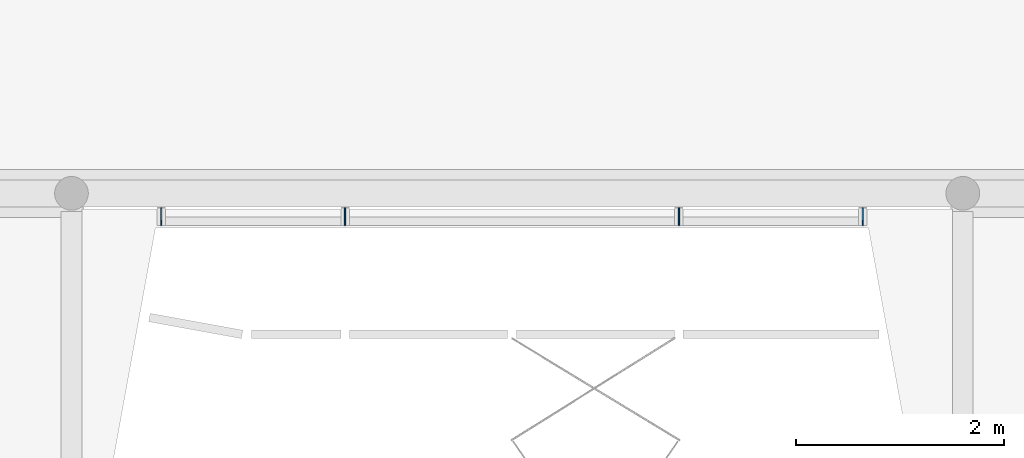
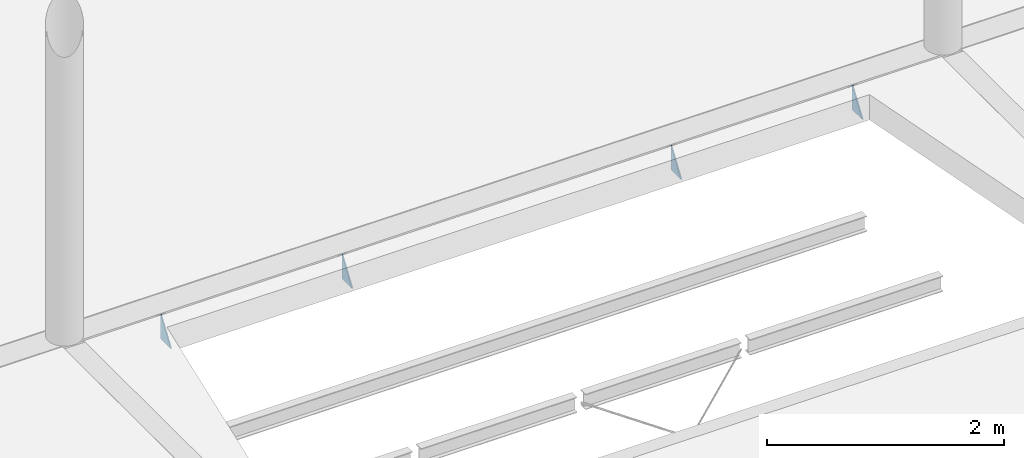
# One storey, part 13 of 14: 4 beams.
"""IFC2X3 building model written with IfcOpenShell, lengths in millimetres."""

from ifc_helpers import new_model, entity, si_unit, converted_unit, derived_unit, direction, frame, origin, place, context, subcontext, project, spatial, faceted_brep, material, type_object, element, save


model = new_model("IFC2X3")

# Units and contexts
model_context = context("Model", 3, precision=0.01, world=origin(), true_north=direction((6.123031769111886e-17, 1.0)))
body_context = subcontext(model_context, "Body", "Model", "MODEL_VIEW")
ifc_project = project(units=[si_unit("LENGTHUNIT", "METRE", prefix="MILLI"), si_unit("AREAUNIT", "SQUARE_METRE", prefix="MILLI"), si_unit("VOLUMEUNIT", "CUBIC_METRE"), converted_unit("PLANEANGLEUNIT", "DEGREE", entity("IfcPlaneAngleMeasure", 0.017453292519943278), si_unit("PLANEANGLEUNIT", "RADIAN"), dimensions=[0, 0, 0, 0, 0, 0, 0]), si_unit("MASSUNIT", "GRAM", prefix="KILO"), derived_unit("MASSDENSITYUNIT", [(si_unit("MASSUNIT", "GRAM", prefix="KILO"), 1), (si_unit("LENGTHUNIT", "METRE"), -3)]), derived_unit("IONCONCENTRATIONUNIT", [(si_unit("MASSUNIT", "GRAM", prefix="KILO"), 1), (si_unit("LENGTHUNIT", "METRE"), -3)]), derived_unit("MOMENTOFINERTIAUNIT", [(si_unit("LENGTHUNIT", "METRE"), 4)]), si_unit("TIMEUNIT", "SECOND"), si_unit("FREQUENCYUNIT", "HERTZ"), si_unit("THERMODYNAMICTEMPERATUREUNIT", "DEGREE_CELSIUS"), derived_unit("THERMALTRANSMITTANCEUNIT", [(si_unit("MASSUNIT", "GRAM", prefix="KILO"), 1), (si_unit("THERMODYNAMICTEMPERATUREUNIT", "KELVIN"), -1), (si_unit("TIMEUNIT", "SECOND"), -3)]), derived_unit("THERMALCONDUCTANCEUNIT", [(si_unit("MASSUNIT", "GRAM", prefix="KILO"), 1), (si_unit("THERMODYNAMICTEMPERATUREUNIT", "KELVIN"), -1), (si_unit("TIMEUNIT", "SECOND"), -3), (si_unit("LENGTHUNIT", "METRE"), 1)]), derived_unit("VOLUMETRICFLOWRATEUNIT", [(si_unit("LENGTHUNIT", "METRE", prefix="DECI"), 3), (si_unit("TIMEUNIT", "SECOND"), -1)]), derived_unit("MASSFLOWRATEUNIT", [(si_unit("MASSUNIT", "GRAM", prefix="KILO"), 1), (si_unit("TIMEUNIT", "SECOND"), -1)]), derived_unit("ROTATIONALFREQUENCYUNIT", [(si_unit("TIMEUNIT", "SECOND"), -1)]), si_unit("ELECTRICCURRENTUNIT", "AMPERE"), si_unit("ELECTRICVOLTAGEUNIT", "VOLT"), si_unit("POWERUNIT", "WATT"), si_unit("FORCEUNIT", "NEWTON", prefix="KILO"), si_unit("ILLUMINANCEUNIT", "LUX"), si_unit("LUMINOUSFLUXUNIT", "LUMEN"), si_unit("LUMINOUSINTENSITYUNIT", "CANDELA"), si_unit("ENERGYUNIT", "JOULE"), derived_unit("USERDEFINED", [(si_unit("MASSUNIT", "GRAM", prefix="KILO"), -1), (si_unit("LENGTHUNIT", "METRE"), -2), (si_unit("TIMEUNIT", "SECOND"), 3), (si_unit("LUMINOUSFLUXUNIT", "LUMEN"), 1)]), derived_unit("USERDEFINED", [(si_unit("MASSUNIT", "GRAM", prefix="KILO"), 1), (si_unit("TIMEUNIT", "SECOND"), -3), (si_unit("LENGTHUNIT", "METRE"), 3), (si_unit("ELECTRICCURRENTUNIT", "AMPERE"), -2)]), derived_unit("SOUNDPOWERUNIT", [(si_unit("MASSUNIT", "GRAM", prefix="KILO"), 1), (si_unit("TIMEUNIT", "SECOND"), -3), (si_unit("LENGTHUNIT", "METRE"), 2)]), derived_unit("SOUNDPRESSUREUNIT", [(si_unit("MASSUNIT", "GRAM", prefix="KILO"), 1), (si_unit("LENGTHUNIT", "METRE"), -1), (si_unit("TIMEUNIT", "SECOND"), -2)]), derived_unit("LINEARVELOCITYUNIT", [(si_unit("LENGTHUNIT", "METRE"), 1), (si_unit("TIMEUNIT", "SECOND"), -1)]), si_unit("PRESSUREUNIT", "PASCAL"), derived_unit("USERDEFINED", [(si_unit("MASSUNIT", "GRAM", prefix="KILO"), 1), (si_unit("LENGTHUNIT", "METRE"), -2), (si_unit("TIMEUNIT", "SECOND"), -2)]), derived_unit("LINEARFORCEUNIT", [(si_unit("MASSUNIT", "GRAM", prefix="KILO"), 1), (si_unit("TIMEUNIT", "SECOND"), -2)]), derived_unit("PLANARFORCEUNIT", [(si_unit("MASSUNIT", "GRAM", prefix="KILO"), 1), (si_unit("LENGTHUNIT", "METRE"), -1), (si_unit("TIMEUNIT", "SECOND"), -2)]), derived_unit("SPECIFICHEATCAPACITYUNIT", [(si_unit("THERMODYNAMICTEMPERATUREUNIT", "KELVIN"), -1), (si_unit("LENGTHUNIT", "METRE"), 2), (si_unit("TIMEUNIT", "SECOND"), -2)]), derived_unit("HEATFLUXDENSITYUNIT", [(si_unit("MASSUNIT", "GRAM", prefix="KILO"), 1), (si_unit("TIMEUNIT", "SECOND"), -3)]), derived_unit("HEATINGVALUEUNIT", [(si_unit("LENGTHUNIT", "METRE"), 2), (si_unit("TIMEUNIT", "SECOND"), -2)]), derived_unit("VAPORPERMEABILITYUNIT", [(si_unit("LENGTHUNIT", "METRE"), -1), (si_unit("TIMEUNIT", "SECOND"), 1)]), derived_unit("DYNAMICVISCOSITYUNIT", [(si_unit("MASSUNIT", "GRAM", prefix="KILO"), 1), (si_unit("TIMEUNIT", "SECOND"), -1), (si_unit("LENGTHUNIT", "METRE"), -1)]), derived_unit("THERMALEXPANSIONCOEFFICIENTUNIT", [(si_unit("THERMODYNAMICTEMPERATUREUNIT", "KELVIN"), -1)]), derived_unit("MODULUSOFELASTICITYUNIT", [(si_unit("MASSUNIT", "GRAM", prefix="KILO"), 1), (si_unit("LENGTHUNIT", "METRE"), -1), (si_unit("TIMEUNIT", "SECOND"), -2)]), derived_unit("ISOTHERMALMOISTURECAPACITYUNIT", [(si_unit("MASSUNIT", "GRAM", prefix="KILO"), -1), (si_unit("LENGTHUNIT", "METRE"), 3)]), derived_unit("MOISTUREDIFFUSIVITYUNIT", [(si_unit("TIMEUNIT", "SECOND"), -1), (si_unit("LENGTHUNIT", "METRE"), 2)]), derived_unit("MASSPERLENGTHUNIT", [(si_unit("MASSUNIT", "GRAM", prefix="KILO"), 1), (si_unit("LENGTHUNIT", "METRE"), -1)]), derived_unit("THERMALRESISTANCEUNIT", [(si_unit("MASSUNIT", "GRAM", prefix="KILO"), -1), (si_unit("TIMEUNIT", "SECOND"), 3), (si_unit("THERMODYNAMICTEMPERATUREUNIT", "KELVIN"), 1)]), derived_unit("ACCELERATIONUNIT", [(si_unit("LENGTHUNIT", "METRE"), 1), (si_unit("TIMEUNIT", "SECOND"), -2)]), derived_unit("ANGULARVELOCITYUNIT", [(si_unit("TIMEUNIT", "SECOND"), -1), (si_unit("PLANEANGLEUNIT", "RADIAN"), 1)]), derived_unit("LINEARSTIFFNESSUNIT", [(si_unit("MASSUNIT", "GRAM", prefix="KILO"), 1), (si_unit("TIMEUNIT", "SECOND"), -2)]), derived_unit("WARPINGCONSTANTUNIT", [(si_unit("LENGTHUNIT", "METRE"), 6)]), derived_unit("LINEARMOMENTUNIT", [(si_unit("MASSUNIT", "GRAM", prefix="KILO"), 1), (si_unit("LENGTHUNIT", "METRE"), 1), (si_unit("TIMEUNIT", "SECOND"), -2)]), derived_unit("TORQUEUNIT", [(si_unit("MASSUNIT", "GRAM", prefix="KILO"), 1), (si_unit("LENGTHUNIT", "METRE"), 2), (si_unit("TIMEUNIT", "SECOND"), -2)])], contexts=[model_context])

# Site, building, storey
site_placement = place(None, origin())
site = spatial("IfcSite", under=ifc_project, at=site_placement, Name="Default", CompositionType="ELEMENT")
building_placement = place(site_placement, origin())
building = spatial("IfcBuilding", under=site, at=building_placement, CompositionType="ELEMENT")
storey_placement = place(building_placement, frame((0.0, 0.0, 3730.0)))
storey = spatial("IfcBuildingStorey", under=building, at=storey_placement, Name="V1 1e verd. (bk ruwe vloer)", CompositionType="ELEMENT", Elevation=3729.9999999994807)

# Beams
ifc_material = material(Name="Metal - Steel - S235 JRG2 (standaard)")
beam_type = type_object("IfcBeamType", Name="btl_staal - Strip b x h:schotje tpv vide", PredefinedType="NOTDEFINED")
beam_1_placement = place(storey_placement, frame((15554.532850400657, 31627.665071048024, -250.0), z_axis=(1.0, 0.0, 0.0), x_axis=(0.0, -0.562310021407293, -0.8269265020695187)))
element("IfcBeam", 1, at=beam_1_placement, inside=storey, type_object=beam_type, material=ifc_material, Name="btl_staal - Strip b x h:schotje tpv vide", ObjectType="btl_staal - Strip b x h:schotje tpv vide", context=body_context, shape_type="Brep", body=[
    faceted_brep([(-0.11171531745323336, -0.0759664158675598, 12.0), (-0.11171531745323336, -0.0759664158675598, 0.0), (-0.1117153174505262, 0.16428723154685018, 0.0), (-0.1117153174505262, 0.16428723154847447, 12.0), (-302.2726719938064, -0.0759664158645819, 12.0), (-302.27267199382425, -0.07596641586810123, 0.0), (-95.54104647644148, 140.50153893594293, 0.0), (-95.54104647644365, 140.50153893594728, 12.0)], [[[0, 1, 2, 3]], [[1, 0, 4, 5]], [[1, 5, 6, 2]], [[4, 0, 3, 7]], [[6, 7, 3, 2]], [[7, 6, 5, 4]]]),
])
beam_2_placement = place(storey_placement, frame((17318.691481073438, 31627.665071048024, -250.0), z_axis=(1.0, 0.0, 0.0), x_axis=(0.0, -0.562310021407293, -0.8269265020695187)))
element("IfcBeam", 2, at=beam_2_placement, inside=storey, type_object=beam_type, material=ifc_material, Name="btl_staal - Strip b x h:schotje tpv vide", ObjectType="btl_staal - Strip b x h:schotje tpv vide", context=body_context, shape_type="Brep", body=[
    faceted_brep([(-0.11171531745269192, -0.07596641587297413, 12.0), (-0.1117153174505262, -0.07596641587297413, 0.0), (-0.11171531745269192, 0.16428723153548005, 0.0), (-0.11171531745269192, 0.16428723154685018, 12.0), (-302.27267199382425, -0.07596641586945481, 12.0), (-302.27267199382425, -0.0759664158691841, 0.0), (-95.54104647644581, 140.5015389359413, 0.0), (-95.54104647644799, 140.50153893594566, 12.0)], [[[0, 1, 2, 3]], [[1, 0, 4, 5]], [[1, 5, 6, 2]], [[4, 0, 3, 7]], [[6, 7, 3, 2]], [[7, 6, 5, 4]]]),
])
beam_3_placement = place(storey_placement, frame((20520.59505965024, 31627.66507104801, -250.0), z_axis=(1.0, 0.0, 0.0), x_axis=(0.0, -0.562310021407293, -0.8269265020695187)))
element("IfcBeam", 3, at=beam_3_placement, inside=storey, type_object=beam_type, material=ifc_material, Name="btl_staal - Strip b x h:schotje tpv vide", ObjectType="btl_staal - Strip b x h:schotje tpv vide", context=body_context, shape_type="Brep", body=[
    faceted_brep([(-0.11171531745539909, -0.0759664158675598, 12.0), (-0.11171531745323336, -0.0759664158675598, 0.0), (-0.11171531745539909, 0.16428723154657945, 0.0), (-0.11171531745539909, 0.16428723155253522, 12.0), (-302.27267199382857, -0.07596641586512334, 12.0), (-302.2726719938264, -0.07596641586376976, 0.0), (-95.54104647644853, 140.501538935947, 0.0), (-95.54104647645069, 140.50153893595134, 12.0)], [[[0, 1, 2, 3]], [[1, 0, 4, 5]], [[1, 5, 6, 2]], [[4, 0, 3, 7]], [[6, 7, 3, 2]], [[7, 6, 5, 4]]]),
])
beam_4_placement = place(storey_placement, frame((22284.645339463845, 31627.66507104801, -250.0), z_axis=(1.0, 0.0, 0.0), x_axis=(0.0, -0.562310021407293, -0.8269265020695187)))
element("IfcBeam", 4, at=beam_4_placement, inside=storey, type_object=beam_type, material=ifc_material, Name="btl_staal - Strip b x h:schotje tpv vide", ObjectType="btl_staal - Strip b x h:schotje tpv vide", context=body_context, shape_type="Brep", body=[
    faceted_brep([(-0.1117153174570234, -0.07596641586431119, 12.0), (-0.11171531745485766, -0.07596641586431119, 0.0), (-0.11171531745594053, 0.16428723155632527, 0.0), (-0.11171531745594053, 0.16428723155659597, 12.0), (-302.27267199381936, -0.07596641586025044, 12.0), (-302.27267199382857, -0.07596641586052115, 0.0), (-95.54104647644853, 140.50153893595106, 0.0), (-95.54104647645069, 140.5015389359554, 12.0)], [[[0, 1, 2, 3]], [[1, 0, 4, 5]], [[1, 5, 6, 2]], [[4, 0, 3, 7]], [[6, 7, 3, 2]], [[7, 6, 5, 4]]]),
])

save(model, "model.ifc")
